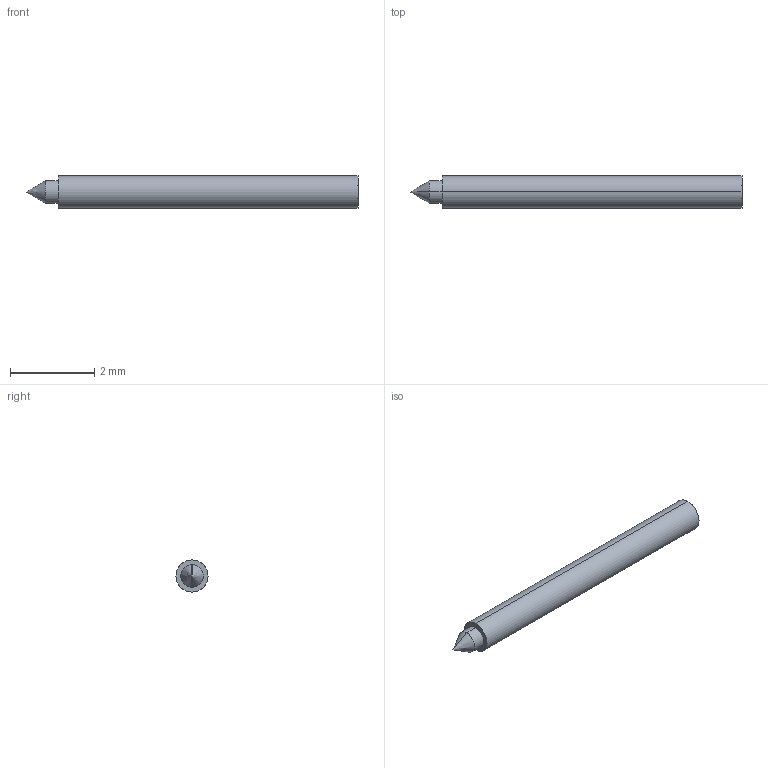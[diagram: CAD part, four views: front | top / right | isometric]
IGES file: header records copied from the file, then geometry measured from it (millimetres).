
Start section: SolidWorks IGES file using analytic representation for surfaces
Global section: file name: O:\PYLON\IGES FILES\A-A-S\A-A-S-C.IGS; native system: SolidWorks 2015; preprocessor: SolidWorks 2015; author: kgolden; date: 171023.142428; units: inch
Bounding box: 7.87 x 0.76 x 0.76 mm (x, y, z)
Surface area: 20.9 mm2 (no closed solid volume)
Topology: 0 solids, 0 shells, 11 faces, 112 edges, 110 vertices
Faces by surface type: revolution 8, bspline 3
